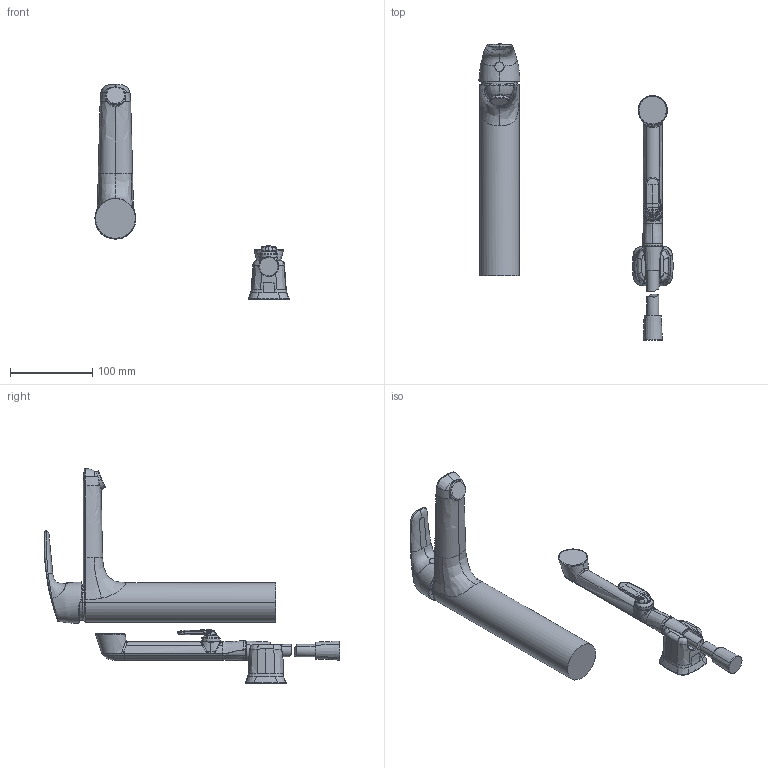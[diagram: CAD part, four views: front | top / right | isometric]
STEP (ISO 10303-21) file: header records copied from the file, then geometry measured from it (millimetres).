
FILE_DESCRIPTION (( 'STEP AP203' ), '1' );
FILE_NAME ('1002F(2023).STEP', '2023-10-12T09:43:33', ( '' ), ( '' ), 'SwSTEP 2.0', 'SolidWorks 2016', '' );
FILE_SCHEMA (( 'CONFIG_CONTROL_DESIGN' ));
Length unit declared in the file: millimetre
Products named in the file (1): 1002F(2023)
Bounding box: 235.58 x 359.16 x 261.38 mm (x, y, z)
Volume: 815127.6 mm3; surface area: 108932.5 mm2
Topology: 10 solids, 10 shells, 357 faces, 864 edges, 527 vertices
Faces by surface type: bspline 274, cone 31, plane 23, cylinder 19, torus 8, sphere 2
Entity records: 78976 total; most frequent: CARTESIAN_POINT 72878, ORIENTED_EDGE 1724, EDGE_CURVE 862, DIRECTION 571, VERTEX_POINT 527, B_SPLINE_CURVE_WITH_KNOTS 504, EDGE_LOOP 359, FACE_OUTER_BOUND 357
